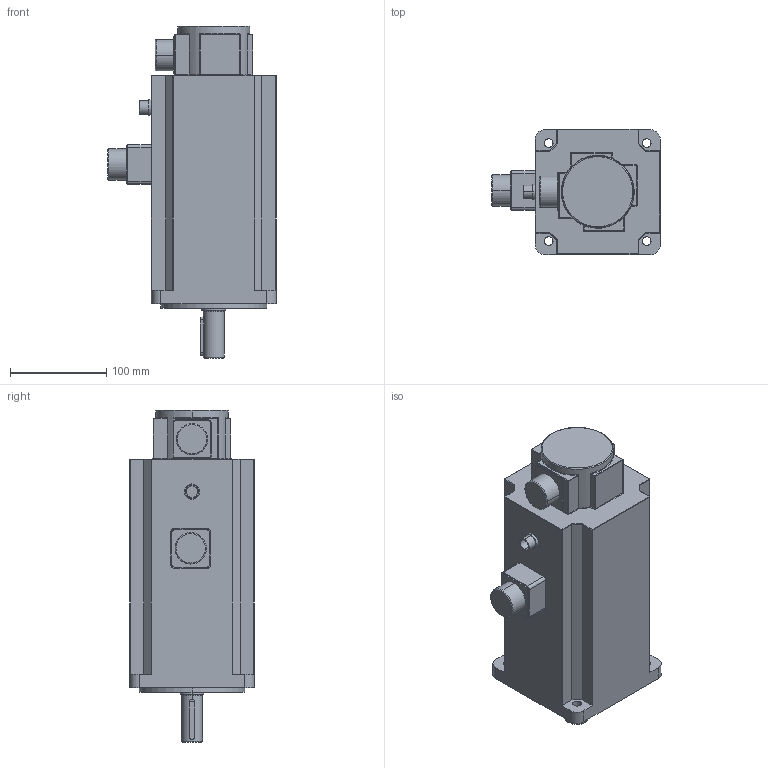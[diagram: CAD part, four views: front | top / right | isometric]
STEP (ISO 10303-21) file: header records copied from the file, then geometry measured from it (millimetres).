
FILE_DESCRIPTION (( 'STEP AP203' ), '1' );
FILE_NAME ('ACH13380CCT6NFrenli.STEP', '2013-03-06T12:11:09', ( '' ), ( '' ), 'SwSTEP 2.0', 'SolidWorks 2012', '' );
FILE_SCHEMA (( 'CONFIG_CONTROL_DESIGN' ));
Length unit declared in the file: millimetre
Products named in the file (1): ACH13380CCT6NFrenli
Bounding box: 175.2 x 130 x 345.5 mm (x, y, z)
Volume: 3973882.8 mm3; surface area: 190414.8 mm2
Topology: 2 solids, 2 shells, 288 faces, 681 edges, 396 vertices
Faces by surface type: cylinder 137, plane 88, torus 31, sphere 23, bspline 9
Entity records: 8573 total; most frequent: CARTESIAN_POINT 1849, DIRECTION 1500, ORIENTED_EDGE 1322, EDGE_CURVE 661, AXIS2_PLACEMENT_3D 591, VERTEX_POINT 396, VECTOR 318, LINE 318
